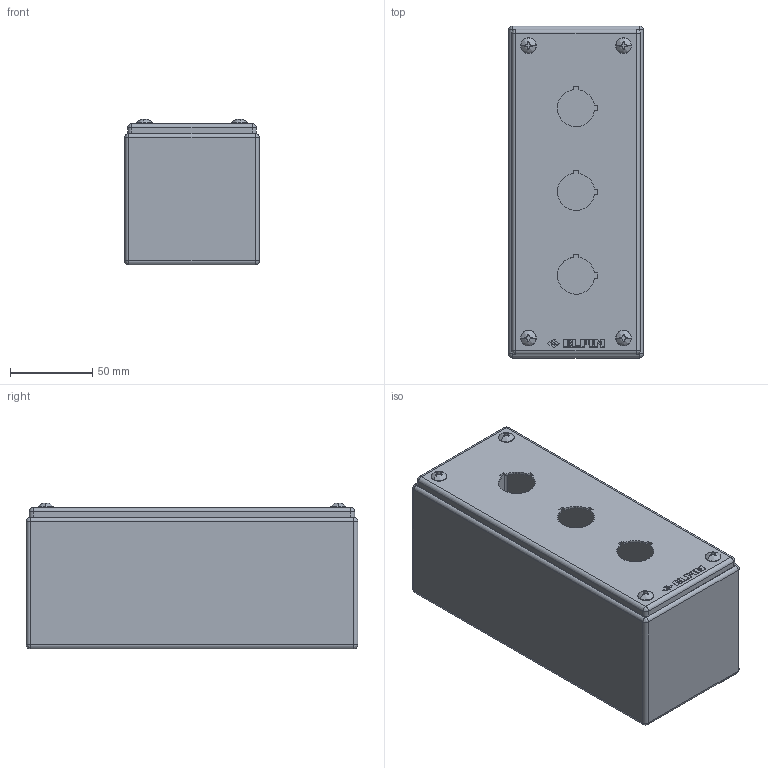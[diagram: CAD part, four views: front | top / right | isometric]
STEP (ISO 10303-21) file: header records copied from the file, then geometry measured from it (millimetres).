
FILE_DESCRIPTION (( 'STEP AP214' ), '1' );
FILE_NAME ('040X0820-8P3.STEP', '2025-05-09T11:33:04', ( '' ), ( '' ), 'SwSTEP 2.0', 'SolidWorks 2013', '' );
FILE_SCHEMA (( 'AUTOMOTIVE_DESIGN' ));
Length unit declared in the file: millimetre
Products named in the file (1): 040X0820-8P3
Bounding box: 82 x 202 x 88.8 mm (x, y, z)
Volume: 97280.6 mm3; surface area: 163597.7 mm2
Topology: 13 solids, 13 shells, 472 faces, 1137 edges, 687 vertices
Faces by surface type: plane 276, cylinder 114, bspline 48, cone 28, torus 6
Entity records: 19530 total; most frequent: CARTESIAN_POINT 3425, ORIENTED_EDGE 2226, DIRECTION 2190, EDGE_CURVE 1113, AXIS2_PLACEMENT_3D 732, VECTOR 726, LINE 726, VERTEX_POINT 687
